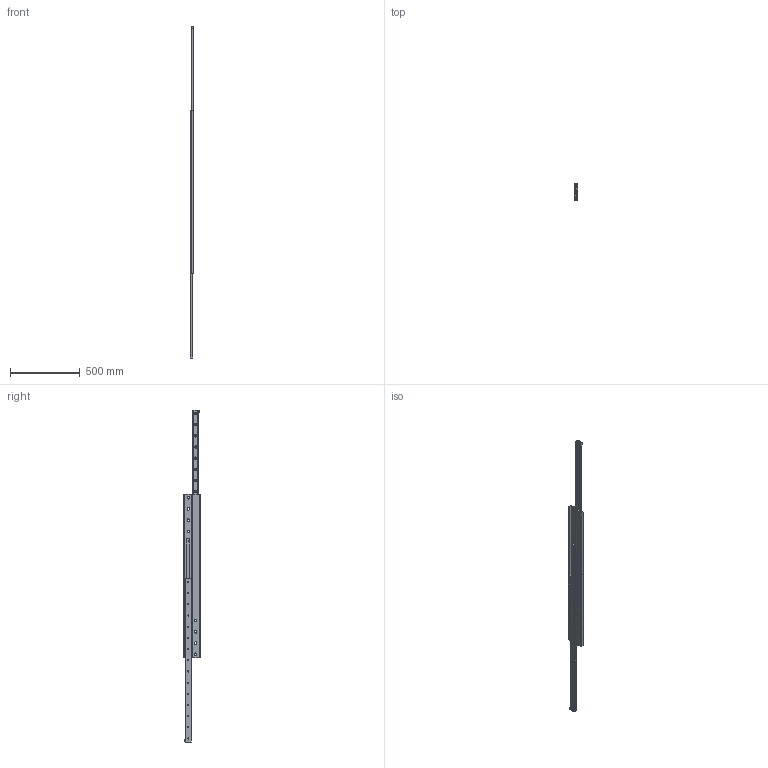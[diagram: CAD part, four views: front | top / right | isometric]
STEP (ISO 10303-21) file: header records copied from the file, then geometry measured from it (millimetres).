
FILE_DESCRIPTION(('STEP AP214'),'1');
FILE_NAME('rail_dss43-1170_01.stp','2017-04-17T03:59:30',('TraceParts'),('TraceParts S.A.'),'Spatial InterOp 3D',' ',' ');
FILE_SCHEMA(('automotive_design'));
Length unit declared in the file: millimetre
Products named in the file (3): rail_dss43-1170_01_1; rail_dss43-1170_01_2; rail_dss43-1170_01_3
Bounding box: 28 x 120 x 2376 mm (x, y, z)
Volume: 2064589.3 mm3; surface area: 835116.3 mm2
Topology: 3 solids, 3 shells, 326 faces, 870 edges, 560 vertices
Faces by surface type: plane 138, cylinder 128, cone 60
Entity records: 10383 total; most frequent: DIRECTION 1860, CARTESIAN_POINT 1759, ORIENTED_EDGE 1740, EDGE_CURVE 870, AXIS2_PLACEMENT_3D 661, VERTEX_POINT 560, LINE 538, VECTOR 538
